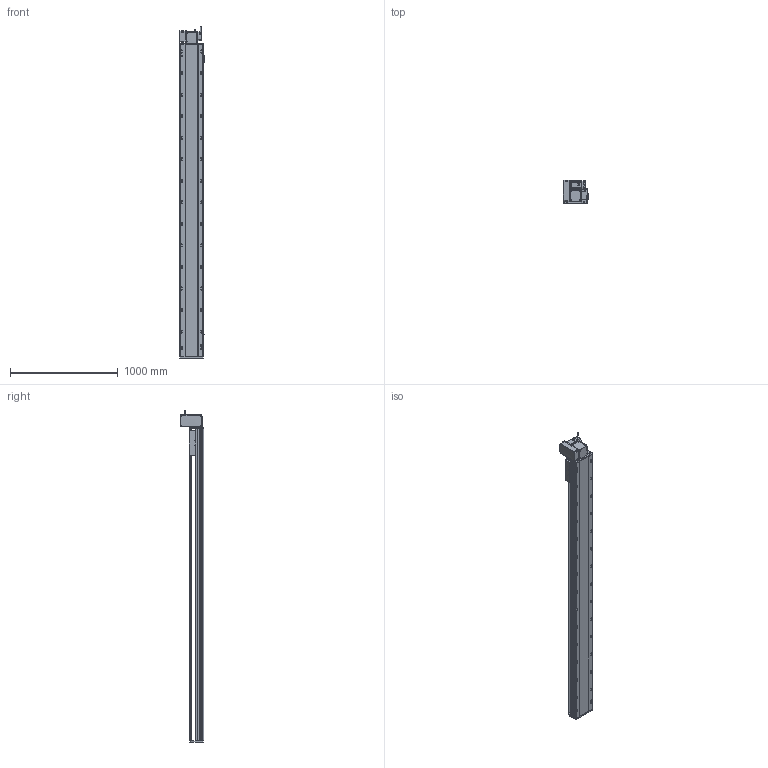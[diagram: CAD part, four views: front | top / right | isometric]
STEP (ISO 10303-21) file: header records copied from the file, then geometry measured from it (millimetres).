
FILE_DESCRIPTION (( 'STEP AP214' ), '1' );
FILE_NAME ('RTB22S-XX-2550-LW-M75-C4.STEP', '2025-12-12T06:03:51', ( '' ), ( '' ), 'SwSTEP 2.0', 'SolidWorks 2018', '' );
FILE_SCHEMA (( 'AUTOMOTIVE_DESIGN' ));
Length unit declared in the file: millimetre
Products named in the file (14): RTB22S-GY-008-M75--萇儂啣^RTB22S-LW-々湍釱蚾饜_RTB22S-XX-XX-LW-M75-C4; RTB22S-GY-005P^RTB22S-LW-々湍釱蚾饜_RTB22S-XX-XX-LW-M75-C4; 750W萇儂^RTB22S-XX-XX-LW-M75-C4; RTB22S-GY-018P^RTB22S-LW-々湍釱蚾饜_RTB22S-XX-XX-LW-M75-C4; RTB22S-L-004賑釱^RTB22S-XX-XX-LW-M75-C4; RTB22S-GY-014--々湍釱^RTB22S-LW-々湍釱蚾饜_RTB22S-XX-XX-LW-M75-C4; RTB22S-GY-001耜裔^RTB22S-XX-XX-LW-M75-C4; OMRON EE-SX672 传感器^RTB22S-XX-XX-LW-M75-C4; RTB22S-GY-007奻裔^RTB22S-XX-XX-LW-M75-C4; RTB22S-L-011菁釱^RTB22S-XX-XX-LW-M75-C4; RTH22-GY-013外置感应片^RTB22S-XX-XX-LW-M75-C4; RTB22S-XX-2550-LW-M75-C4; RTB22S-GY-017P^RTB22S-LW-々湍釱蚾饜_RTB22S-XX-XX-LW-M75-C4; RTB22S-LW-々湍釱蚾饜^RTB22S-XX-XX-LW-M75-C4
Assembly tree (16 placements, depth 3):
  RTB22S-XX-2550-LW-M75-C4
    RTB22S-L-011菁釱^RTB22S-XX-XX-LW-M75-C4
    RTB22S-GY-001耜裔^RTB22S-XX-XX-LW-M75-C4
    750W萇儂^RTB22S-XX-XX-LW-M75-C4
    RTB22S-GY-007奻裔^RTB22S-XX-XX-LW-M75-C4
    RTB22S-L-004賑釱^RTB22S-XX-XX-LW-M75-C4
    RTH22-GY-013外置感应片^RTB22S-XX-XX-LW-M75-C4
    OMRON EE-SX672 传感器^RTB22S-XX-XX-LW-M75-C4  x3
    RTB22S-LW-々湍釱蚾饜^RTB22S-XX-XX-LW-M75-C4
      RTB22S-GY-014--々湍釱^RTB22S-LW-々湍釱蚾饜_RTB22S-XX-XX-LW-M75-C4
      RTB22S-GY-017P^RTB22S-LW-々湍釱蚾饜_RTB22S-XX-XX-LW-M75-C4  x2
      RTB22S-GY-005P^RTB22S-LW-々湍釱蚾饜_RTB22S-XX-XX-LW-M75-C4
      RTB22S-GY-008-M75--萇儂啣^RTB22S-LW-々湍釱蚾饜_RTB22S-XX-XX-LW-M75-C4
      RTB22S-GY-018P^RTB22S-LW-々湍釱蚾饜_RTB22S-XX-XX-LW-M75-C4
Bounding box: 238.5 x 215.5 x 3082.2 mm (x, y, z)
Volume: 39347748.7 mm3; surface area: 4021737.6 mm2
Topology: 15 solids, 15 shells, 2109 faces, 5736 edges, 3662 vertices
Faces by surface type: plane 929, cylinder 706, bspline 296, cone 166, sphere 8, torus 4
Entity records: 57374 total; most frequent: CARTESIAN_POINT 16208, ORIENTED_EDGE 8204, DIRECTION 8016, EDGE_CURVE 4102, AXIS2_PLACEMENT_3D 2874, VERTEX_POINT 2666, VECTOR 2268, LINE 2268
